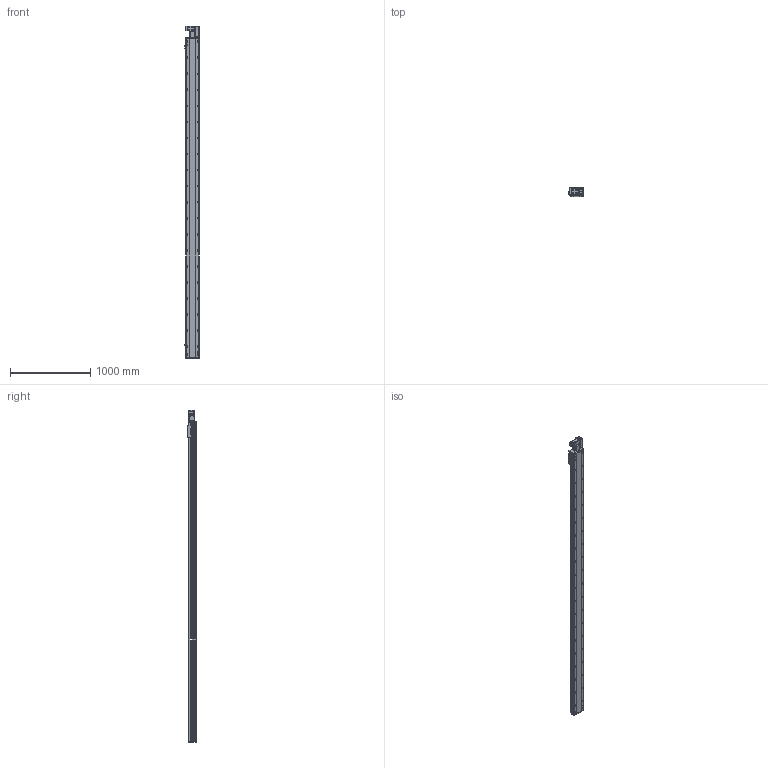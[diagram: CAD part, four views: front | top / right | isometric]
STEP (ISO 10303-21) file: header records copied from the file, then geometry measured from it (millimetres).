
FILE_DESCRIPTION (( 'STEP AP214' ), '1' );
FILE_NAME ('RTB17S-XX-3700-R-M40-C4.STEP', '2025-12-11T08:02:59', ( '' ), ( '' ), 'SwSTEP 2.0', 'SolidWorks 2018', '' );
FILE_SCHEMA (( 'AUTOMOTIVE_DESIGN' ));
Length unit declared in the file: millimetre
Products named in the file (14): RTB14-L-017P^RTB17S-R-々湍釱蚾饜-400W_RTB17S-XX-XX-R-M40-C4; RTB17S-L-014-T20--々湍釱^RTB17S-R-々湍釱蚾饜-400W_RTB17S-XX-XX-R-M40-C4; RTB17S-L-007奻裔^RTB17S-XX-XX-R-M40-C4; RTB14-L-008-M20--萇儂啣^RTB17S-R-々湍釱蚾饜-400W_RTB17S-XX-XX-R-M40-C4; RTB14-L-005P--轴承塑胶压盖^RTB17S-R-皮带座装配-400W_RTB17S-XX-XX-R-M40-C4; RTH13-BL-012覜茼え俋离^RTB17S-XX-XX-R-M40-C4; RTB17S-L-004佪裝蹟譫蟀諉釱^RTB17S-XX-XX-R-M40-C4; RTB17-R-011菁釱^RTB17S-XX-XX-R-M40-C4; RTB17S-L-001耜醱啣^RTB17S-XX-XX-R-M40-C4; RTB17S-XX-3700-R-M40-C4; OMRON EE-SX672 传感器^RTB17S-XX-XX-R-M40-C4; RTB17S-R-々湍釱蚾饜-400W^RTB17S-XX-XX-R-M40-C4; 400W侜督萇儂^RTB17S-XX-XX-R-M40-C4; RTB14-L-018P^RTB17S-R-々湍釱蚾饜-400W_RTB17S-XX-XX-R-M40-C4
Assembly tree (16 placements, depth 3):
  RTB17S-XX-3700-R-M40-C4
    RTB17-R-011菁釱^RTB17S-XX-XX-R-M40-C4
    RTB17S-L-007奻裔^RTB17S-XX-XX-R-M40-C4
    OMRON EE-SX672 传感器^RTB17S-XX-XX-R-M40-C4  x3
    RTB17S-L-001耜醱啣^RTB17S-XX-XX-R-M40-C4
    400W侜督萇儂^RTB17S-XX-XX-R-M40-C4
    RTB17S-L-004佪裝蹟譫蟀諉釱^RTB17S-XX-XX-R-M40-C4
    RTH13-BL-012覜茼え俋离^RTB17S-XX-XX-R-M40-C4
    RTB17S-R-々湍釱蚾饜-400W^RTB17S-XX-XX-R-M40-C4
      RTB17S-L-014-T20--々湍釱^RTB17S-R-々湍釱蚾饜-400W_RTB17S-XX-XX-R-M40-C4
      RTB14-L-005P--轴承塑胶压盖^RTB17S-R-皮带座装配-400W_RTB17S-XX-XX-R-M40-C4
      RTB14-L-008-M20--萇儂啣^RTB17S-R-々湍釱蚾饜-400W_RTB17S-XX-XX-R-M40-C4
      RTB14-L-017P^RTB17S-R-々湍釱蚾饜-400W_RTB17S-XX-XX-R-M40-C4  x2
      RTB14-L-018P^RTB17S-R-々湍釱蚾饜-400W_RTB17S-XX-XX-R-M40-C4
Bounding box: 183.5 x 108 x 4141 mm (x, y, z)
Volume: 34389986.7 mm3; surface area: 3900050.9 mm2
Topology: 15 solids, 15 shells, 2429 faces, 6843 edges, 4473 vertices
Faces by surface type: plane 1096, cylinder 885, bspline 301, cone 139, torus 8
Entity records: 73385 total; most frequent: CARTESIAN_POINT 21048, ORIENTED_EDGE 10530, DIRECTION 9656, EDGE_CURVE 5265, VERTEX_POINT 3461, AXIS2_PLACEMENT_3D 3391, LINE 2874, VECTOR 2874
